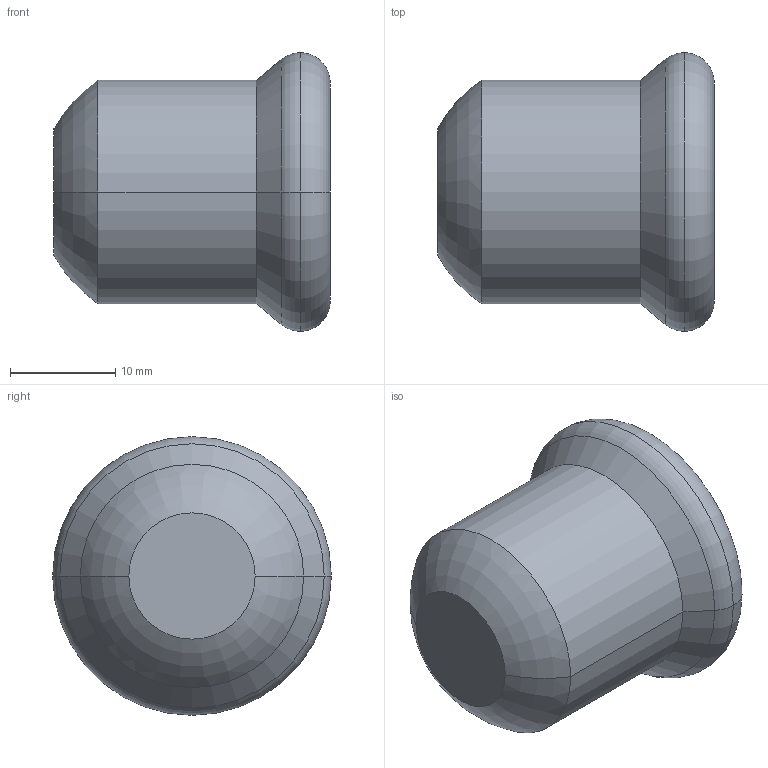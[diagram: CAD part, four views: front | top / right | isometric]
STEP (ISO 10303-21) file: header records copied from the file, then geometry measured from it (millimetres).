
FILE_DESCRIPTION(('CoCreate Modeling STEP Export'),'2;1');
FILE_NAME('C1429 18.stp','2014-11-12T16:07:48',(''),(''),'CoCreate Modeling STEP processor for AP214 (Solid Model)','CoCreate Modeling 17.00A 17-Jun-2010 (C) Parametric Technology GmbH','');
FILE_SCHEMA(('AUTOMOTIVE_DESIGN { 1 0 10303 214 1 1 1 1 }'));
Length unit declared in the file: millimetre
Products named in the file (2): C1429_18
Assembly tree (1 placements, depth 2):
  C1429_18
    C1429_18
Bounding box: 26.3 x 26.5 x 26.5 mm (x, y, z)
Volume: 4066.4 mm3; surface area: 3852.2 mm2
Topology: 1 solids, 1 shells, 21 faces, 41 edges, 25 vertices
Faces by surface type: cylinder 8, torus 6, plane 5, cone 2
Entity records: 485 total; most frequent: ORIENTED_EDGE 82, DIRECTION 74, CARTESIAN_POINT 67, EDGE_CURVE 41, AXIS2_PLACEMENT_3D 32, VERTEX_POINT 25, EDGE_LOOP 24, FACE_OUTER_BOUND 21
